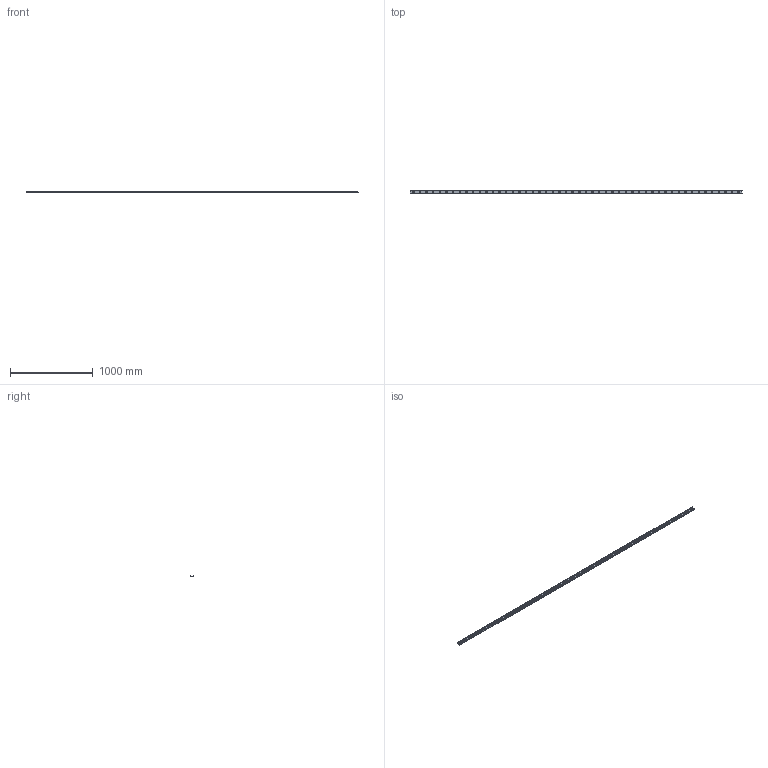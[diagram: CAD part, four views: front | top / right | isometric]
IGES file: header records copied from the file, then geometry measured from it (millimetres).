
Start section: SolidWorks IGES file using analytic representation for surfaces
Global section: file name: C:\Users\IanO\Desktop\43\L1943.ULV43_v2_20180121_IGES\L1943.ULV43-4000.igs; native system: SolidWorks 2017; preprocessor: SolidWorks 2017; author: IanO; date: 190121.090724; units: millimetre
Bounding box: 4000 x 43 x 21 mm (x, y, z)
Surface area: 620407.4 mm2 (no closed solid volume)
Topology: 0 solids, 0 shells, 226 faces, 4294 edges, 4294 vertices
Faces by surface type: revolution 213, bspline 13
